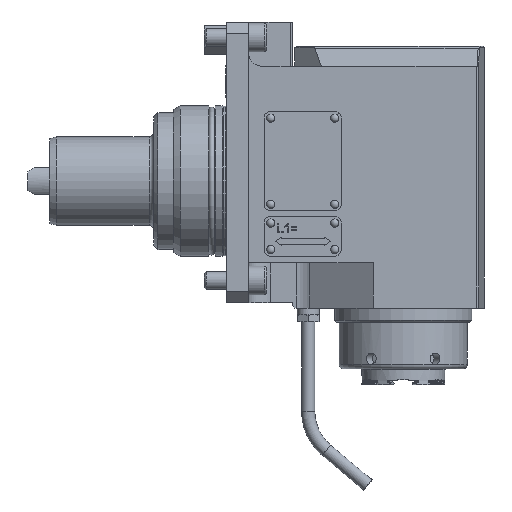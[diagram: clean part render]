
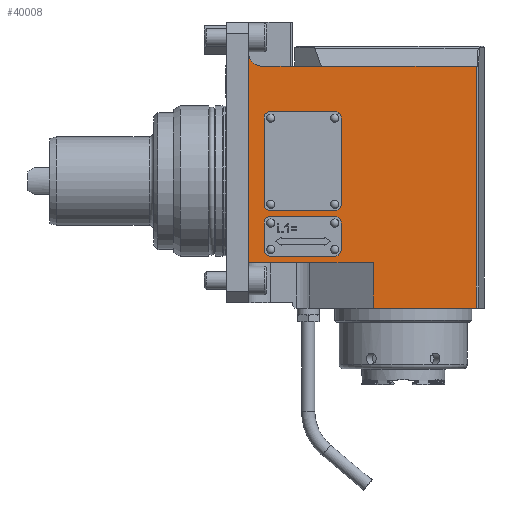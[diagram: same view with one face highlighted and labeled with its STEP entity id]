
A CAD part, front view. The second image highlights one B-rep face of the part: STEP entity #40008.
In plain terms, the highlighted planar face has unit normal (0, -1, 0).
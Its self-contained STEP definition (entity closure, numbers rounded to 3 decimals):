
#16933=CIRCLE('',#38610,6.);
#16934=CIRCLE('',#38611,3.);
#16935=CIRCLE('',#38612,3.);
#16936=CIRCLE('',#38613,3.);
#16937=CIRCLE('',#38614,3.);
#16938=CIRCLE('',#38615,3.);
#16939=CIRCLE('',#38616,3.);
#16940=CIRCLE('',#38617,3.);
#16941=CIRCLE('',#38618,3.);
#18190=ORIENTED_EDGE('',*,*,#23187,.F.);
#18191=ORIENTED_EDGE('',*,*,#23188,.F.);
#18192=ORIENTED_EDGE('',*,*,#23189,.F.);
#18193=ORIENTED_EDGE('',*,*,#23190,.T.);
#18194=ORIENTED_EDGE('',*,*,#23191,.T.);
#18195=ORIENTED_EDGE('',*,*,#23183,.F.);
#18196=ORIENTED_EDGE('',*,*,#23186,.F.);
#18197=ORIENTED_EDGE('',*,*,#23171,.T.);
#18198=ORIENTED_EDGE('',*,*,#23192,.F.);
#18199=ORIENTED_EDGE('',*,*,#23193,.T.);
#18200=ORIENTED_EDGE('',*,*,#23194,.F.);
#18201=ORIENTED_EDGE('',*,*,#23195,.T.);
#18202=ORIENTED_EDGE('',*,*,#23196,.F.);
#18203=ORIENTED_EDGE('',*,*,#23197,.T.);
#18204=ORIENTED_EDGE('',*,*,#23198,.F.);
#18205=ORIENTED_EDGE('',*,*,#23199,.T.);
#18206=ORIENTED_EDGE('',*,*,#23200,.F.);
#18207=ORIENTED_EDGE('',*,*,#23201,.T.);
#18208=ORIENTED_EDGE('',*,*,#23202,.F.);
#18209=ORIENTED_EDGE('',*,*,#23203,.T.);
#18210=ORIENTED_EDGE('',*,*,#23204,.F.);
#18211=ORIENTED_EDGE('',*,*,#23205,.T.);
#18212=ORIENTED_EDGE('',*,*,#23206,.F.);
#18213=ORIENTED_EDGE('',*,*,#23207,.T.);
#20336=VECTOR('',#26650,1.);
#20346=VECTOR('',#26670,1.);
#20348=VECTOR('',#26676,1.);
#20349=VECTOR('',#26679,1.);
#20350=VECTOR('',#26680,1.);
#20351=VECTOR('',#26681,1.);
#20352=VECTOR('',#26684,1.);
#20353=VECTOR('',#26685,1.);
#20354=VECTOR('',#26688,1.);
#20355=VECTOR('',#26691,1.);
#20356=VECTOR('',#26694,1.);
#20357=VECTOR('',#26697,1.);
#20358=VECTOR('',#26700,1.);
#20359=VECTOR('',#26703,1.);
#20360=VECTOR('',#26706,1.);
#21146=LINE('',#35703,#20336);
#21156=LINE('',#35727,#20346);
#21158=LINE('',#35732,#20348);
#21159=LINE('',#35735,#20349);
#21160=LINE('',#35737,#20350);
#21161=LINE('',#35739,#20351);
#21162=LINE('',#35742,#20352);
#21163=LINE('',#35745,#20353);
#21164=LINE('',#35749,#20354);
#21165=LINE('',#35753,#20355);
#21166=LINE('',#35757,#20356);
#21167=LINE('',#35761,#20357);
#21168=LINE('',#35765,#20358);
#21169=LINE('',#35769,#20359);
#21170=LINE('',#35773,#20360);
#22080=VERTEX_POINT('',#35700);
#22081=VERTEX_POINT('',#35702);
#22089=VERTEX_POINT('',#35724);
#22090=VERTEX_POINT('',#35726);
#22092=VERTEX_POINT('',#35734);
#22093=VERTEX_POINT('',#35736);
#22094=VERTEX_POINT('',#35738);
#22095=VERTEX_POINT('',#35740);
#22096=VERTEX_POINT('',#35743);
#22097=VERTEX_POINT('',#35744);
#22098=VERTEX_POINT('',#35746);
#22099=VERTEX_POINT('',#35748);
#22100=VERTEX_POINT('',#35750);
#22101=VERTEX_POINT('',#35752);
#22102=VERTEX_POINT('',#35754);
#22103=VERTEX_POINT('',#35756);
#22104=VERTEX_POINT('',#35759);
#22105=VERTEX_POINT('',#35760);
#22106=VERTEX_POINT('',#35762);
#22107=VERTEX_POINT('',#35764);
#22108=VERTEX_POINT('',#35766);
#22109=VERTEX_POINT('',#35768);
#22110=VERTEX_POINT('',#35770);
#22111=VERTEX_POINT('',#35772);
#23171=EDGE_CURVE('',#22081,#22080,#21146,.T.);
#23183=EDGE_CURVE('',#22089,#22090,#21156,.T.);
#23186=EDGE_CURVE('',#22081,#22089,#21158,.T.);
#23187=EDGE_CURVE('',#22092,#22080,#21159,.T.);
#23188=EDGE_CURVE('',#22093,#22092,#21160,.T.);
#23189=EDGE_CURVE('',#22094,#22093,#21161,.T.);
#23190=EDGE_CURVE('',#22094,#22095,#16933,.T.);
#23191=EDGE_CURVE('',#22095,#22090,#21162,.T.);
#23192=EDGE_CURVE('',#22096,#22097,#21163,.T.);
#23193=EDGE_CURVE('',#22096,#22098,#16934,.T.);
#23194=EDGE_CURVE('',#22099,#22098,#21164,.T.);
#23195=EDGE_CURVE('',#22099,#22100,#16935,.T.);
#23196=EDGE_CURVE('',#22101,#22100,#21165,.T.);
#23197=EDGE_CURVE('',#22101,#22102,#16936,.T.);
#23198=EDGE_CURVE('',#22103,#22102,#21166,.T.);
#23199=EDGE_CURVE('',#22103,#22097,#16937,.T.);
#23200=EDGE_CURVE('',#22104,#22105,#21167,.T.);
#23201=EDGE_CURVE('',#22104,#22106,#16938,.T.);
#23202=EDGE_CURVE('',#22107,#22106,#21168,.T.);
#23203=EDGE_CURVE('',#22107,#22108,#16939,.T.);
#23204=EDGE_CURVE('',#22109,#22108,#21169,.T.);
#23205=EDGE_CURVE('',#22109,#22110,#16940,.T.);
#23206=EDGE_CURVE('',#22111,#22110,#21170,.T.);
#23207=EDGE_CURVE('',#22111,#22105,#16941,.T.);
#24364=EDGE_LOOP('',(#18190,#18191,#18192,#18193,#18194,#18195,#18196,#18197));
#24365=EDGE_LOOP('',(#18198,#18199,#18200,#18201,#18202,#18203,#18204,#18205));
#24366=EDGE_LOOP('',(#18206,#18207,#18208,#18209,#18210,#18211,#18212,#18213));
#25234=FACE_BOUND('',#24364,.T.);
#25235=FACE_BOUND('',#24365,.T.);
#25236=FACE_BOUND('',#24366,.T.);
#26650=DIRECTION('',(46.706,0.,0.));
#26670=DIRECTION('',(-56.419,0.,0.));
#26676=DIRECTION('',(0.,0.,20.5));
#26677=DIRECTION('',(0.,-1.,0.));
#26678=DIRECTION('',(-1.,0.,0.));
#26679=DIRECTION('',(0.,0.,-109.5));
#26680=DIRECTION('',(70.125,0.,0.));
#26681=DIRECTION('',(27.,0.,0.));
#26682=DIRECTION('',(0.,1.,0.));
#26683=DIRECTION('',(0.,0.,-6.));
#26684=DIRECTION('',(0.,0.,-95.));
#26685=DIRECTION('',(-29.,0.,0.));
#26686=DIRECTION('',(0.,1.,0.));
#26687=DIRECTION('',(0.,0.,-3.));
#26688=DIRECTION('',(0.,0.,12.));
#26689=DIRECTION('',(0.,1.,0.));
#26690=DIRECTION('',(0.,0.,-3.));
#26691=DIRECTION('',(29.,0.,0.));
#26692=DIRECTION('',(0.,1.,0.));
#26693=DIRECTION('',(0.,0.,-3.));
#26694=DIRECTION('',(0.,0.,-12.));
#26695=DIRECTION('',(0.,1.,0.));
#26696=DIRECTION('',(0.,0.,-3.));
#26697=DIRECTION('',(-29.,0.,0.));
#26698=DIRECTION('',(0.,1.,0.));
#26699=DIRECTION('',(3.,0.,0.));
#26700=DIRECTION('',(0.,0.,39.));
#26701=DIRECTION('',(0.,1.,0.));
#26702=DIRECTION('',(3.,0.,0.));
#26703=DIRECTION('',(29.,0.,0.));
#26704=DIRECTION('',(0.,1.,0.));
#26705=DIRECTION('',(3.,0.,0.));
#26706=DIRECTION('',(0.,0.,-39.));
#26707=DIRECTION('',(0.,1.,0.));
#26708=DIRECTION('',(3.,0.,0.));
#35700=CARTESIAN_POINT('',(113.125,-38.,-57.5));
#35702=CARTESIAN_POINT('',(66.419,-38.,-57.5));
#35703=CARTESIAN_POINT('',(66.419,-38.,-57.5));
#35724=CARTESIAN_POINT('',(66.419,-38.,-37.));
#35726=CARTESIAN_POINT('',(10.,-38.,-37.));
#35727=CARTESIAN_POINT('',(66.419,-38.,-37.));
#35732=CARTESIAN_POINT('',(66.419,-38.,-57.5));
#35733=CARTESIAN_POINT('',(113.125,-38.,52.));
#35734=CARTESIAN_POINT('',(113.125,-38.,52.));
#35735=CARTESIAN_POINT('',(113.125,-38.,52.));
#35736=CARTESIAN_POINT('',(43.,-38.,52.));
#35737=CARTESIAN_POINT('',(43.,-38.,52.));
#35738=CARTESIAN_POINT('',(16.,-38.,52.));
#35739=CARTESIAN_POINT('',(16.,-38.,52.));
#35740=CARTESIAN_POINT('',(10.,-38.,58.));
#35741=CARTESIAN_POINT('',(16.,-38.,58.));
#35742=CARTESIAN_POINT('',(10.,-38.,58.));
#35743=CARTESIAN_POINT('',(49.,-38.,-16.));
#35744=CARTESIAN_POINT('',(20.,-38.,-16.));
#35745=CARTESIAN_POINT('',(49.,-38.,-16.));
#35746=CARTESIAN_POINT('',(52.,-38.,-19.));
#35747=CARTESIAN_POINT('',(49.,-38.,-19.));
#35748=CARTESIAN_POINT('',(52.,-38.,-31.));
#35749=CARTESIAN_POINT('',(52.,-38.,-31.));
#35750=CARTESIAN_POINT('',(49.,-38.,-34.));
#35751=CARTESIAN_POINT('',(49.,-38.,-31.));
#35752=CARTESIAN_POINT('',(20.,-38.,-34.));
#35753=CARTESIAN_POINT('',(20.,-38.,-34.));
#35754=CARTESIAN_POINT('',(17.,-38.,-31.));
#35755=CARTESIAN_POINT('',(20.,-38.,-31.));
#35756=CARTESIAN_POINT('',(17.,-38.,-19.));
#35757=CARTESIAN_POINT('',(17.,-38.,-19.));
#35758=CARTESIAN_POINT('',(20.,-38.,-19.));
#35759=CARTESIAN_POINT('',(49.,-38.,31.5));
#35760=CARTESIAN_POINT('',(20.,-38.,31.5));
#35761=CARTESIAN_POINT('',(49.,-38.,31.5));
#35762=CARTESIAN_POINT('',(52.,-38.,28.5));
#35763=CARTESIAN_POINT('',(49.,-38.,28.5));
#35764=CARTESIAN_POINT('',(52.,-38.,-10.5));
#35765=CARTESIAN_POINT('',(52.,-38.,-10.5));
#35766=CARTESIAN_POINT('',(49.,-38.,-13.5));
#35767=CARTESIAN_POINT('',(49.,-38.,-10.5));
#35768=CARTESIAN_POINT('',(20.,-38.,-13.5));
#35769=CARTESIAN_POINT('',(20.,-38.,-13.5));
#35770=CARTESIAN_POINT('',(17.,-38.,-10.5));
#35771=CARTESIAN_POINT('',(20.,-38.,-10.5));
#35772=CARTESIAN_POINT('',(17.,-38.,28.5));
#35773=CARTESIAN_POINT('',(17.,-38.,28.5));
#35774=CARTESIAN_POINT('',(20.,-38.,28.5));
#38609=AXIS2_PLACEMENT_3D('',#35733,#26677,#26678);
#38610=AXIS2_PLACEMENT_3D('',#35741,#26682,#26683);
#38611=AXIS2_PLACEMENT_3D('',#35747,#26686,#26687);
#38612=AXIS2_PLACEMENT_3D('',#35751,#26689,#26690);
#38613=AXIS2_PLACEMENT_3D('',#35755,#26692,#26693);
#38614=AXIS2_PLACEMENT_3D('',#35758,#26695,#26696);
#38615=AXIS2_PLACEMENT_3D('',#35763,#26698,#26699);
#38616=AXIS2_PLACEMENT_3D('',#35767,#26701,#26702);
#38617=AXIS2_PLACEMENT_3D('',#35771,#26704,#26705);
#38618=AXIS2_PLACEMENT_3D('',#35774,#26707,#26708);
#39503=PLANE('',#38609);
#40008=ADVANCED_FACE('',(#25234,#25235,#25236),#39503,.T.);
